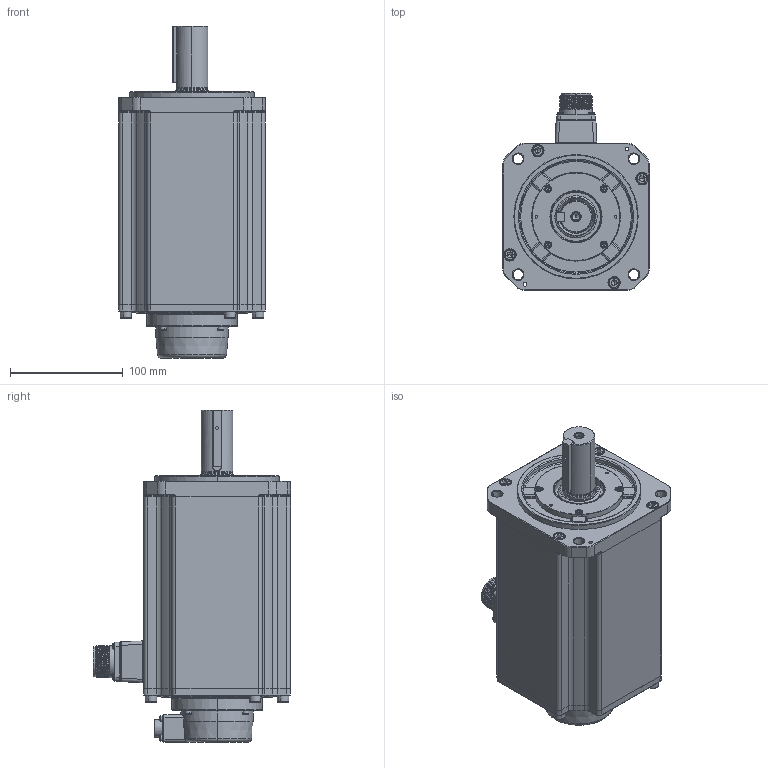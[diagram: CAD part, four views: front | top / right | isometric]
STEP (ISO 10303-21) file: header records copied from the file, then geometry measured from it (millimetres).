
FILE_DESCRIPTION (( 'STEP AP214' ), '1' );
FILE_NAME ('RSA1-S-130-4kw.STEP', '2024-08-12T02:19:18', ( '' ), ( '' ), 'SwSTEP 2.0', 'SolidWorks 2020', '' );
FILE_SCHEMA (( 'AUTOMOTIVE_DESIGN' ));
Length unit declared in the file: millimetre
Products named in the file (17): 130-蚐猾_TC30x45x8(NBR); 130-苤嫦講粣創裔啣; 坋趼羞攫芛蹟隊_M3x30; 内六角圆柱头螺钉_M3x10; 4140000005_电机内部编码器线_7x26AWG(0.1m-CMV1-10芯螺纹插座_GACJ3045); 130-梓袧綴傷裔; 内六角圆柱头螺钉_M6x20; 130雄薯瑤脣價釱; す瑩_B8x7x50; 雄薯瑤脣; ﾊｮﾗﾖｲﾛﾅﾌﾍｷﾗﾔｼｷﾂﾝｶ､_M3x8; RSA1-S-130-4kw; 130梓袧綴裔; 130-S-ヶ傷裔; 130-S-4kw儂褲; 130-苤嫦講-粣噤28; 内六角圆柱头和平垫圈组合螺钉_M3x16
Assembly tree (35 placements, depth 2):
  RSA1-S-130-4kw
    130-S-4kw儂褲
    130雄薯瑤脣價釱
    130-S-ヶ傷裔
    130-苤嫦講-粣噤28
    雄薯瑤脣
    130-苤嫦講粣創裔啣
    130-蚐猾_TC30x45x8(NBR)
    130-梓袧綴傷裔
    130梓袧綴裔
    4140000005_电机内部编码器线_7x26AWG(0.1m-CMV1-10芯螺纹插座_GACJ3045)
    内六角圆柱头螺钉_M6x20  x8
    内六角圆柱头和平垫圈组合螺钉_M3x16  x4
    内六角圆柱头螺钉_M3x10  x4
    坋趼羞攫芛蹟隊_M3x30  x4
    ﾊｮﾗﾖｲﾛﾅﾌﾍｷﾗﾔｼｷﾂﾝｶ､_M3x8  x4
    す瑩_B8x7x50
Bounding box: 130 x 174.4 x 293.9 mm (x, y, z)
Volume: 2937612.9 mm3; surface area: 298028.2 mm2
Topology: 46 solids, 46 shells, 2867 faces, 7115 edges, 4425 vertices
Faces by surface type: plane 1403, cylinder 740, cone 364, torus 197, bspline 115, sphere 48
Entity records: 97502 total; most frequent: CARTESIAN_POINT 24588, DIRECTION 11955, ORIENTED_EDGE 11802, EDGE_CURVE 5901, AXIS2_PLACEMENT_3D 4210, VERTEX_POINT 3722, VECTOR 3535, LINE 3535
